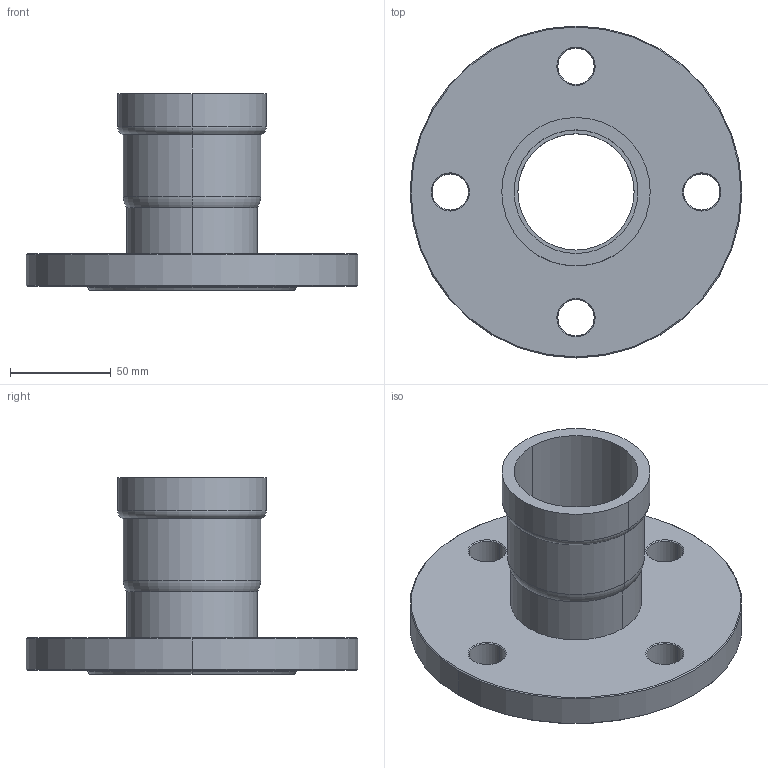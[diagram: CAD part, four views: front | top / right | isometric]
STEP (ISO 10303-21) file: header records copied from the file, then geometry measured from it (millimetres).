
FILE_DESCRIPTION(('Creo Elements/Direct Modeling STEP Export'),'2;1');
FILE_NAME('C9426_2.stp','2020-07-17T11:40:44',(''),(''),'PTC Creo Elements/Direct Modeling STEP processor for AP214 (Solid Model)','PTC Creo Elements/Direct Modeling 19.0C 15-Aug-2015 (C) Parametric Technology GmbH','');
FILE_SCHEMA(('AUTOMOTIVE_DESIGN { 1 0 10303 214 1 1 1 1 }'));
Length unit declared in the file: millimetre
Products named in the file (2): C9426_2
Assembly tree (1 placements, depth 2):
  C9426_2
    C9426_2
Bounding box: 165 x 165 x 97.62 mm (x, y, z)
Volume: 361694.5 mm3; surface area: 84407.1 mm2
Topology: 1 solids, 1 shells, 93 faces, 194 edges, 118 vertices
Faces by surface type: torus 32, cone 24, cylinder 20, plane 17
Entity records: 2236 total; most frequent: DIRECTION 392, ORIENTED_EDGE 388, CARTESIAN_POINT 336, EDGE_CURVE 194, AXIS2_PLACEMENT_3D 174, VERTEX_POINT 118, EDGE_LOOP 118, FACE_OUTER_BOUND 93
